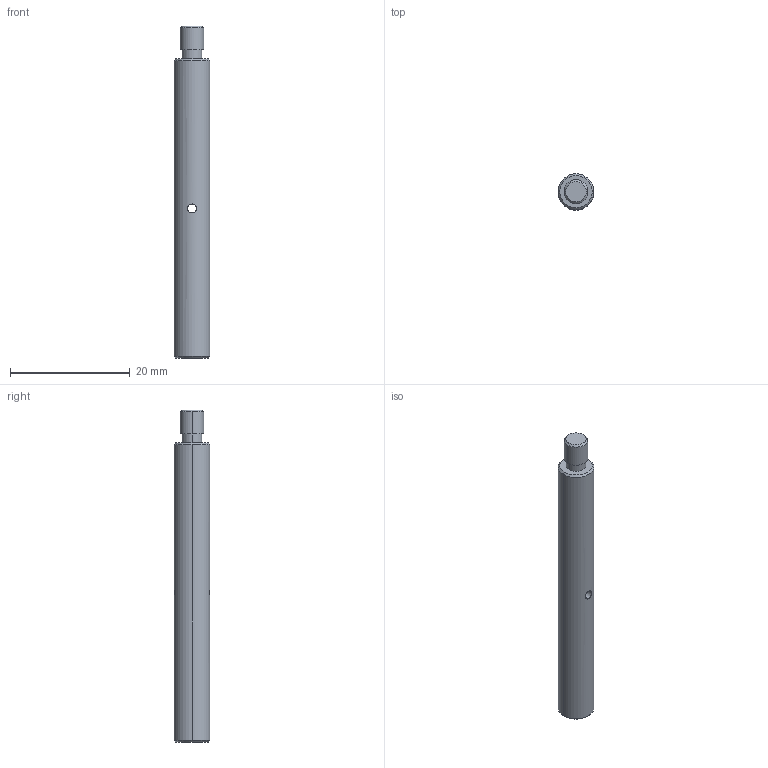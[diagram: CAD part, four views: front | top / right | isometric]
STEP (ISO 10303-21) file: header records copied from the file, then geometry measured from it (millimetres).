
FILE_DESCRIPTION (( 'STEP AP203' ), '1' );
FILE_NAME ('PHSP6-3.step', '2019-05-09T09:09:02', ( '' ), ( '' ), 'SwSTEP 2.0', 'SolidWorks 2016', '' );
FILE_SCHEMA (( 'CONFIG_CONTROL_DESIGN' ));
Length unit declared in the file: millimetre
Products named in the file (1): PHSP6-3
Bounding box: 6 x 6 x 55.5 mm (x, y, z)
Volume: 1421.2 mm3; surface area: 1155.5 mm2
Topology: 1 solids, 1 shells, 22 faces, 46 edges, 27 vertices
Faces by surface type: cylinder 10, cone 8, plane 4
Entity records: 703 total; most frequent: CARTESIAN_POINT 150, DIRECTION 108, ORIENTED_EDGE 88, AXIS2_PLACEMENT_3D 45, EDGE_CURVE 44, EDGE_LOOP 27, VERTEX_POINT 27, CIRCLE 22
